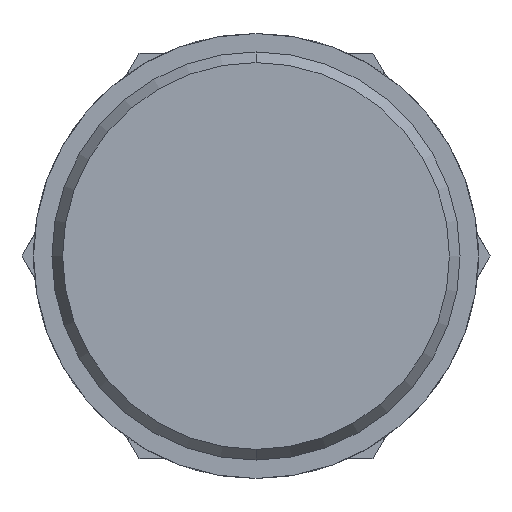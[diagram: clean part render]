
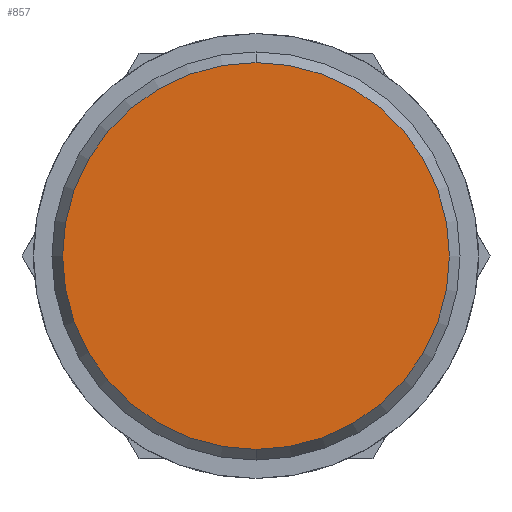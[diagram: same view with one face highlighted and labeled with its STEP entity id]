
A CAD part, left-side view. The second image highlights one B-rep face of the part: STEP entity #857.
In plain terms, the highlighted planar face has unit normal (-1, 0, 0).
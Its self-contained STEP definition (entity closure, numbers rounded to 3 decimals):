
#151 = ORIENTED_EDGE ( 'NONE', *, *, #901, .F. ) ;
#153 = DIRECTION ( 'NONE',  ( 0., 0., -1. ) ) ;
#188 = DIRECTION ( 'NONE',  ( 1., 0., 0. ) ) ;
#206 = DIRECTION ( 'NONE',  ( 1., 0., 0. ) ) ;
#298 = CARTESIAN_POINT ( 'NONE',  ( 0., 0., 0. ) ) ;
#367 = VERTEX_POINT ( 'NONE', #793 ) ;
#372 = DIRECTION ( 'NONE',  ( -1., 0., 0. ) ) ;
#382 = CIRCLE ( 'NONE', #754, 10.5 ) ;
#482 = EDGE_LOOP ( 'NONE', ( #517, #151 ) ) ;
#517 = ORIENTED_EDGE ( 'NONE', *, *, #726, .F. ) ;
#547 = DIRECTION ( 'NONE',  ( 0., 0., 1. ) ) ;
#697 = CARTESIAN_POINT ( 'NONE',  ( 0., 0., 0. ) ) ;
#705 = AXIS2_PLACEMENT_3D ( 'NONE', #965, #372, #547 ) ;
#711 = CARTESIAN_POINT ( 'NONE',  ( 0., 0., 10.5 ) ) ;
#726 = EDGE_CURVE ( 'NONE', #367, #844, #986, .T. ) ;
#754 = AXIS2_PLACEMENT_3D ( 'NONE', #298, #206, #153 ) ;
#775 = DIRECTION ( 'NONE',  ( 0., 0., -1. ) ) ;
#793 = CARTESIAN_POINT ( 'NONE',  ( 0., 0., -10.5 ) ) ;
#844 = VERTEX_POINT ( 'NONE', #711 ) ;
#857 = ADVANCED_FACE ( 'NONE', ( #878 ), #1046, .T. ) ;
#878 = FACE_OUTER_BOUND ( 'NONE', #482, .T. ) ;
#901 = EDGE_CURVE ( 'NONE', #844, #367, #382, .T. ) ;
#965 = CARTESIAN_POINT ( 'NONE',  ( 0., 0., 0. ) ) ;
#986 = CIRCLE ( 'NONE', #1061, 10.5 ) ;
#1046 = PLANE ( 'NONE',  #705 ) ;
#1061 = AXIS2_PLACEMENT_3D ( 'NONE', #697, #188, #775 ) ;
